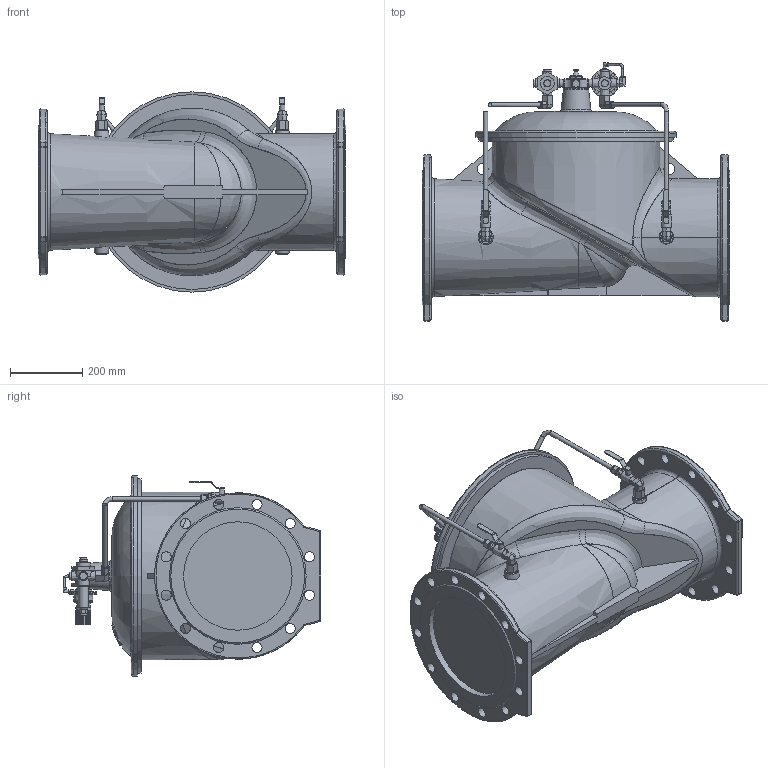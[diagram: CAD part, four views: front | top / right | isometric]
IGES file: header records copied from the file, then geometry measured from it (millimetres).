
Start section: SolidWorks IGES file using analytic representation for surfaces
Global section: file name: \\avksan2\techshare\PBM outline export from Enovia\O_859_00_DN300_1XXXX00_REV01.igs; native system: SolidWorks 2019; preprocessor: SolidWorks 2019; author: pbm; date: 201117.130307; units: millimetre
Bounding box: 850 x 713.33 x 554 mm (x, y, z)
Surface area: 2140787.1 mm2 (no closed solid volume)
Topology: 0 solids, 1 shells, 874 faces, 4242 edges, 4112 vertices
Faces by surface type: bspline 565, revolution 309
